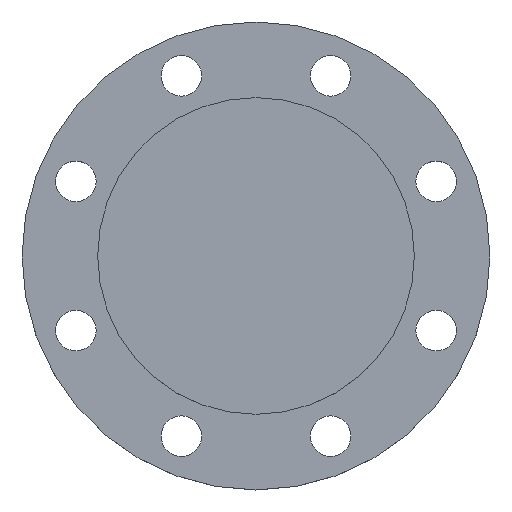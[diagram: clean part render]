
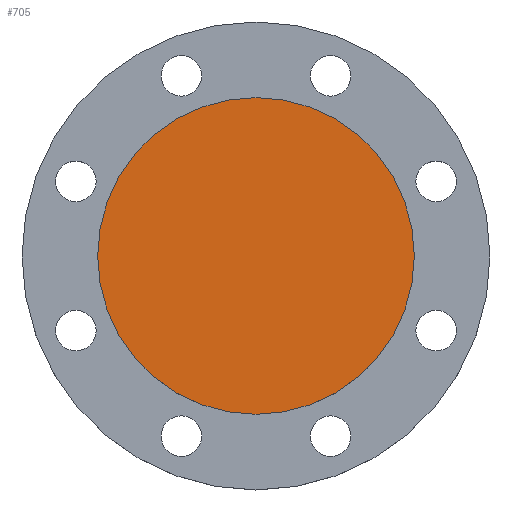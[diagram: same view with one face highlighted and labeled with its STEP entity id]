
A CAD part, top view. The second image highlights one B-rep face of the part: STEP entity #705.
In plain terms, the highlighted planar face has unit normal (0, 0, 1).
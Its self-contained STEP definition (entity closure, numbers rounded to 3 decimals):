
#1 = DIRECTION ( 'NONE',  ( -1., 0., 0. ) ) ;
#25 = DIRECTION ( 'NONE',  ( 0., 0., -1. ) ) ;
#26 = VERTEX_POINT ( 'NONE', #720 ) ;
#41 = EDGE_CURVE ( 'NONE', #26, #558, #502, .T. ) ;
#135 = EDGE_LOOP ( 'NONE', ( #303, #311 ) ) ;
#167 = AXIS2_PLACEMENT_3D ( 'NONE', #627, #25, #325 ) ;
#181 = CIRCLE ( 'NONE', #167, 101.5 ) ;
#202 = DIRECTION ( 'NONE',  ( 1., 0., 0. ) ) ;
#223 = EDGE_CURVE ( 'NONE', #558, #26, #181, .T. ) ;
#243 = AXIS2_PLACEMENT_3D ( 'NONE', #532, #743, #202 ) ;
#268 = PLANE ( 'NONE',  #243 ) ;
#303 = ORIENTED_EDGE ( 'NONE', *, *, #223, .F. ) ;
#311 = ORIENTED_EDGE ( 'NONE', *, *, #41, .F. ) ;
#325 = DIRECTION ( 'NONE',  ( -1., 0., 0. ) ) ;
#378 = CARTESIAN_POINT ( 'NONE',  ( 0., 0., 0. ) ) ;
#502 = CIRCLE ( 'NONE', #748, 101.5 ) ;
#532 = CARTESIAN_POINT ( 'NONE',  ( 0., 0., 0. ) ) ;
#558 = VERTEX_POINT ( 'NONE', #731 ) ;
#611 = DIRECTION ( 'NONE',  ( 0., 0., -1. ) ) ;
#627 = CARTESIAN_POINT ( 'NONE',  ( 0., 0., 0. ) ) ;
#705 = ADVANCED_FACE ( 'NONE', ( #787 ), #268, .T. ) ;
#720 = CARTESIAN_POINT ( 'NONE',  ( 101.5, 0., 0. ) ) ;
#731 = CARTESIAN_POINT ( 'NONE',  ( -101.5, 0., 0. ) ) ;
#743 = DIRECTION ( 'NONE',  ( 0., 0., 1. ) ) ;
#748 = AXIS2_PLACEMENT_3D ( 'NONE', #378, #611, #1 ) ;
#787 = FACE_OUTER_BOUND ( 'NONE', #135, .T. ) ;
